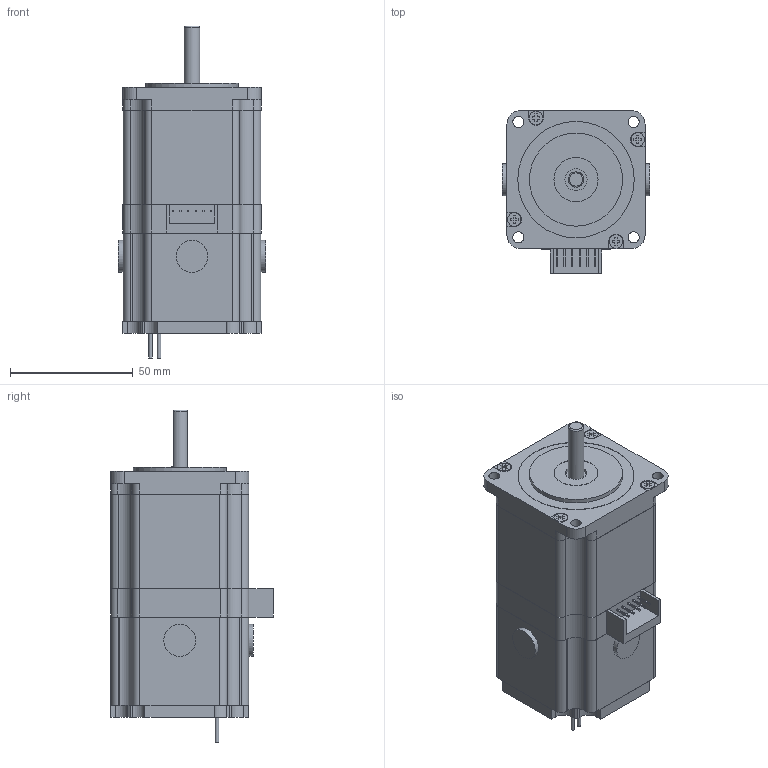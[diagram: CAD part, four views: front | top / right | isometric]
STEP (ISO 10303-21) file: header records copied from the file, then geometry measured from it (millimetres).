
FILE_DESCRIPTION(/* description */ (''),/* implementation_level */ '2;1');
FILE_NAME(/* name */ 'UB57D24-D42-455.stp',/* time_stamp */ '2018-08-20T10:49:16+08:00',/* author */ (''),/* organization */ (''),/* preprocessor_version */ 'ST-DEVELOPER v11',/* originating_system */ 'SIEMENS UGS NX 6.0',/* authorisation */ '');
FILE_SCHEMA (('CONFIG_CONTROL_DESIGN'));
Length unit declared in the file: millimetre
Products named in the file (1): UB57D24-D42-455
Bounding box: 60.2 x 66.4 x 135.5 mm (x, y, z)
Volume: 292272 mm3; surface area: 30112.9 mm2
Topology: 1 solids, 3 shells, 276 faces, 721 edges, 480 vertices
Faces by surface type: plane 189, cylinder 86, torus 1
Full cylindrical faces by diameter (mm): 1.5 x2, 4.5 x4, 5.5 x4, 6 x1, 6.35 x2, 9 x2, 13 x3, 13.226 x1, 18 x1, 38 x1, 47.5 x1
Entity records: 8389 total; most frequent: CARTESIAN_POINT 1454, DIRECTION 1417, ORIENTED_EDGE 1382, EDGE_CURVE 691, LINE 515, VECTOR 515, VERTEX_POINT 472, AXIS2_PLACEMENT_3D 451
